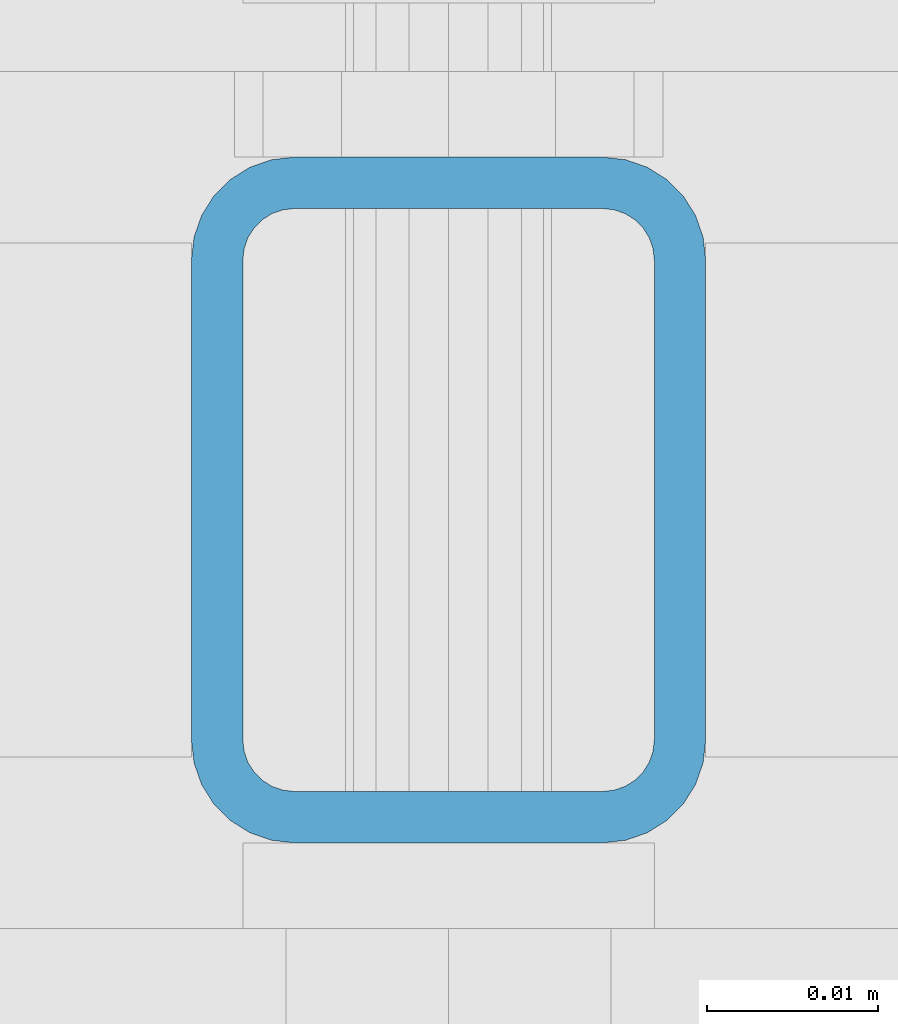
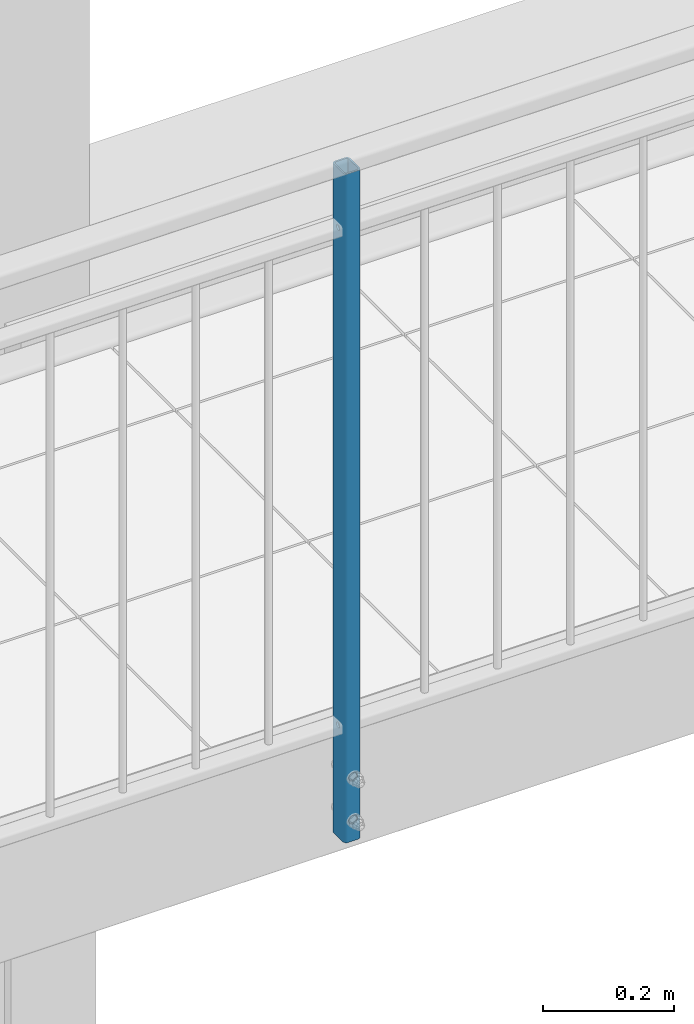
# One storey, part 3 of 162: 1 column, 8 openings.
"""IFC2X3 building model written with IfcOpenShell, lengths in millimetres."""

import ifcopenshell
import ifcopenshell.guid

model = None  # the IFC model being written
_history = None  # IfcOwnerHistory: only IFC2X3 demands one
_inside = {}  # id of a spatial element -> (the spatial element, [elements in it])
_under = {}  # id of a project, library or spatial element -> (it, [spatial elements below it])
_declared = {}  # id of a project -> (the project, [libraries it declares])
_typed = {}  # id of a type object -> (the type object, [elements of that type])
_made_of = {}  # id of a material, layer set ... -> (it, [elements and type objects made of it])


def new_model(schema):
    """Start an empty IFC model of exactly this schema.

    Asked for "IFC4X3", IfcOpenShell would pick the latest addendum, in which some entities
    have other attributes; the version numbers below select the first issue.
    IFC2X3 requires an IfcOwnerHistory on every rooted entity: one is made here for all.
    """
    global model, _history
    if schema == "IFC4X3":
        model = ifcopenshell.file(schema_version=(4, 3, 0, 0))
    else:
        model = ifcopenshell.file(schema=schema)
    _inside.clear()
    _under.clear()
    _declared.clear()
    _typed.clear()
    _made_of.clear()
    _history = None
    if model.schema == "IFC2X3":
        org = make("IfcOrganization", Name="unknown")
        user = make(
            "IfcPersonAndOrganization",
            ThePerson=make("IfcPerson", FamilyName="unknown"),
            TheOrganization=org,
        )
        app = make(
            "IfcApplication",
            ApplicationDeveloper=org,
            Version="unknown",
            ApplicationFullName="unknown",
            ApplicationIdentifier="unknown",
        )
        _history = make(
            "IfcOwnerHistory",
            OwningUser=user,
            OwningApplication=app,
            ChangeAction="ADDED",
            CreationDate=0,
        )
    return model


def make(cls, **values):
    """One entity of the class cls with the attributes given. An attribute that is None is left unset."""
    return model.create_entity(
        cls, **{name: value for name, value in values.items() if value is not None}
    )


def entity(cls, *values):
    """Any entity or typed value of the class cls, its attributes in the order of the schema. None: left unset."""
    e = model.create_entity(cls)
    for i, value in enumerate(values):
        if value is not None:
            e[i] = value
    return e


def rooted(cls, **values):
    """An entity with a GlobalId (a new one), such as an element, a storey or a relation."""
    return make(cls, GlobalId=ifcopenshell.guid.new(), OwnerHistory=_history, **values)


def si_unit(unit_type, name, prefix=None):
    """IfcSIUnit, for example si_unit("LENGTHUNIT", "METRE", prefix="MILLI")."""
    return make("IfcSIUnit", UnitType=unit_type, Prefix=prefix, Name=name)


def converted_unit(unit_type, name, factor, base, dimensions=None, offset=None):
    """IfcConversionBasedUnit, such as the inch: factor (a typed value) times the base unit."""
    return make(
        "IfcConversionBasedUnit"
        if offset is None
        else "IfcConversionBasedUnitWithOffset",
        ConversionOffset=offset,
        Dimensions=None
        if dimensions is None
        else entity("IfcDimensionalExponents", *dimensions),
        UnitType=unit_type,
        Name=name,
        ConversionFactor=make(
            "IfcMeasureWithUnit", ValueComponent=factor, UnitComponent=base
        ),
    )


def assignment(units):
    """IfcUnitAssignment: the units of a project."""
    return None if units is None else make("IfcUnitAssignment", Units=units)


def point(xyz):
    """IfcCartesianPoint."""
    return None if xyz is None else make("IfcCartesianPoint", Coordinates=xyz)


def direction(xyz):
    """IfcDirection."""
    return None if xyz is None else make("IfcDirection", DirectionRatios=xyz)


def frame(location, z_axis=None, x_axis=None):
    """IfcAxis2Placement3D, a coordinate frame: its origin and axes. An axis left out is left unset."""
    return make(
        "IfcAxis2Placement3D",
        Location=point(location),
        Axis=direction(z_axis),
        RefDirection=direction(x_axis),
    )


def frame_2d(location, x_axis=None):
    """IfcAxis2Placement2D, a coordinate frame in the plane: its origin and x axis."""
    return make(
        "IfcAxis2Placement2D", Location=point(location), RefDirection=direction(x_axis)
    )


def origin():
    """The frame at (0, 0, 0) with its axes left unset."""
    return frame((0.0, 0.0, 0.0))


def origin_with_axes():
    """The frame at (0, 0, 0) with the z axis (0, 0, 1) and the x axis (1, 0, 0) written out."""
    return frame((0.0, 0.0, 0.0), z_axis=(0.0, 0.0, 1.0), x_axis=(1.0, 0.0, 0.0))


def origin_2d():
    """The frame at (0, 0) in the plane with its x axis left unset."""
    return frame_2d((0.0, 0.0))


def place(relative_to, where):
    """IfcLocalPlacement: puts the frame where relative to a parent placement (None: the world)."""
    return make(
        "IfcLocalPlacement", PlacementRelTo=relative_to, RelativePlacement=where
    )


def context(
    kind, dimensions, precision=None, world=None, true_north=None, identifier=None
):
    """IfcGeometricRepresentationContext, for example the 3D "Model" context."""
    return make(
        "IfcGeometricRepresentationContext",
        ContextIdentifier=identifier,
        ContextType=kind,
        CoordinateSpaceDimension=dimensions,
        Precision=precision,
        WorldCoordinateSystem=world,
        TrueNorth=true_north,
    )


def project(units=None, contexts=None):
    """IfcProject with its units and contexts."""
    return rooted(
        "IfcProject",
        Name="project",
        RepresentationContexts=contexts,
        UnitsInContext=assignment(units),
    )


def spatial(cls, under=None, at=None, **own):
    """A site, building, storey or space (cls), placed at a placement, below another one or the project."""
    s = rooted(cls, ObjectPlacement=at, **own)
    if under is not None:
        _under.setdefault(under.id(), (under, []))[1].append(s)
    return s


def profile(cls, at=None, kind="AREA", **sizes):
    """A parametric profile (cls). Its sizes go by their IFC names, for example OverallWidth=200.0."""
    return make(cls, ProfileType=kind, Position=at, **sizes)


def hollow_rectangle(**sizes):
    """IfcRectangleHollowProfileDef."""
    return profile("IfcRectangleHollowProfileDef", **sizes)


def circle(**sizes):
    """IfcCircleProfileDef."""
    return profile("IfcCircleProfileDef", **sizes)


def extrude(swept, where, along, depth):
    """IfcExtrudedAreaSolid: the profile swept, set in the frame where, extruded along a direction by depth."""
    return make(
        "IfcExtrudedAreaSolid",
        SweptArea=swept,
        Position=where,
        ExtrudedDirection=direction(along),
        Depth=depth,
    )


def shape(context_of_items, identifier, shape_type, items):
    """IfcShapeRepresentation: the items that make up one representation, for example the "Body"."""
    return make(
        "IfcShapeRepresentation",
        ContextOfItems=context_of_items,
        RepresentationIdentifier=identifier,
        RepresentationType=shape_type,
        Items=items,
    )


def material(Name=None, Category=None):
    """IfcMaterial."""
    return make("IfcMaterial", Name=Name, Category=Category)


def made_of(thing, what):
    """Note that an element or type object is made of a material, layer set ...; save() writes the relation."""
    if what is not None:
        _made_of.setdefault(what.id(), (what, []))[1].append(thing)
    return thing


def element(
    cls,
    number,
    at=None,
    inside=None,
    cuts=None,
    type_object=None,
    material=None,
    context=None,
    identifier="Body",
    shape_type=None,
    held_by="IfcProductDefinitionShape",
    body=None,
    shapes=None,
    **own,
):
    """One element of the class cls, such as IfcWall. Its Tag is "e" and its number.

    at: its placement. inside: the storey or other place that contains it. cuts: it is an
    opening in that element (IfcRelVoidsElement). A single representation is given by context,
    identifier, shape_type and body (its items); several are given by shapes. held_by: the class
    of the entity that holds the representations. save() writes the other relations.
    """
    e = rooted(cls, Tag="e%d" % number, ObjectPlacement=at, **own)
    if body is not None:
        shapes = [shape(context, identifier, shape_type, body)]
    if shapes is not None:
        e.Representation = make(held_by, Representations=shapes)
    if inside is not None:
        _inside.setdefault(inside.id(), (inside, []))[1].append(e)
    if cuts is not None:
        rooted(
            "IfcRelVoidsElement", RelatingBuildingElement=cuts, RelatedOpeningElement=e
        )
    if type_object is not None:
        _typed.setdefault(type_object.id(), (type_object, []))[1].append(e)
    return made_of(e, material)


def aggregate(whole, parts):
    """IfcRelAggregates: a whole, such as a stair, and the parts it consists of."""
    return rooted("IfcRelAggregates", RelatingObject=whole, RelatedObjects=parts)


def save(model, path):
    """Write the relations noted so far, then the file.

    IfcRelAggregates (storeys below a building ...), IfcRelContainedInSpatialStructure (elements
    in a storey), IfcRelDefinesByType, IfcRelAssociatesMaterial and IfcRelDeclares: one each for
    every whole, place, type object, material and project.
    """
    for whole, parts in _under.values():
        aggregate(whole, parts)
    for where, things in _inside.values():
        rooted(
            "IfcRelContainedInSpatialStructure",
            RelatedElements=things,
            RelatingStructure=where,
        )
    for kind, things in _typed.values():
        rooted("IfcRelDefinesByType", RelatedObjects=things, RelatingType=kind)
    for what, things in _made_of.values():
        rooted("IfcRelAssociatesMaterial", RelatedObjects=things, RelatingMaterial=what)
    for by, libraries in _declared.values():
        rooted("IfcRelDeclares", RelatingContext=by, RelatedDefinitions=libraries)
    model.write(path)


model = new_model("IFC2X3")

# Units and contexts
model_context = context("Model", 3, precision=1e-09, world=origin_with_axes())
ifc_project = project(units=[si_unit("LENGTHUNIT", "METRE", prefix="MILLI"), si_unit("AREAUNIT", "SQUARE_METRE"), si_unit("VOLUMEUNIT", "CUBIC_METRE"), converted_unit("PLANEANGLEUNIT", "DEGREE", entity("IfcPlaneAngleMeasure", 0.01745329), si_unit("PLANEANGLEUNIT", "RADIAN"), dimensions=[0, 0, 0, 0, 0, 0, 0])], contexts=[model_context])

# Site, building, storey
site_placement = place(None, origin_with_axes())
site = spatial("IfcSite", under=ifc_project, at=site_placement, Name="Hermannstra?e 1a, 60318 Frankfurt", CompositionType="ELEMENT")
building_placement = place(site_placement, origin_with_axes())
building = spatial("IfcBuilding", under=site, at=building_placement, Name="Struktur 1", CompositionType="ELEMENT")
storey_placement = place(building_placement, origin_with_axes())
storey = spatial("IfcBuildingStorey", under=building, at=storey_placement, Name="Default Storey", CompositionType="ELEMENT", Elevation=0.0)

# Column, openings
ifc_material = material(Name="S235JR")
column_placement = place(None, frame((3523.30936482, 1515.609373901, 15056.999), z_axis=(0.0, 0.0, -1.0), x_axis=(1.0, 0.0, 0.0)))
column = element("IfcColumn", 1, at=column_placement, inside=storey, material=ifc_material, Name="-", ObjectType="-", context=model_context, shape_type="SweptSolid", body=[
    extrude(hollow_rectangle(XDim=30.0, YDim=40.0, WallThickness=3.0, InnerFilletRadius=3.0, OuterFilletRadius=6.0, at=origin_2d()), origin(), (0.0, 0.0, -1.0), 1250.0),
])
opening_1_placement = place(column_placement, frame((11.5, 0.0, -240.0), z_axis=(1.0, 0.0, 0.0), x_axis=(0.0, -1.0, 0.0)))
element("IfcOpeningElement", 2, at=opening_1_placement, cuts=column, ObjectType="Opening", context=model_context, shape_type="SweptSolid", body=[
    extrude(circle(Radius=5.001, at=frame_2d((0.0, -30.0), x_axis=(1.0, 0.0))), origin(), (0.0, 0.0, 1.0), 4.0),
])
opening_2_placement = place(column_placement, frame((11.5, 0.0, -1040.0), z_axis=(1.0, 0.0, 0.0), x_axis=(0.0, -1.0, 0.0)))
element("IfcOpeningElement", 3, at=opening_2_placement, cuts=column, ObjectType="Opening", context=model_context, shape_type="SweptSolid", body=[
    extrude(circle(Radius=5.001, at=frame_2d((0.0, 100.0), x_axis=(1.0, 0.0))), origin(), (0.0, 0.0, 1.0), 4.0),
])
opening_3_placement = place(column_placement, frame((-11.5, 5.001, -1140.0), z_axis=(1.0, 0.0, 0.0), x_axis=(0.0, 1.0, 0.0)))
element("IfcOpeningElement", 4, at=opening_3_placement, cuts=column, ObjectType="Opening", context=model_context, shape_type="SweptSolid", body=[
    extrude(circle(Radius=5.001, at=frame_2d((-5.001, 0.0), x_axis=(1.0, 0.0))), origin(), (0.0, 0.0, -1.0), 4.0),
])
opening_4_placement = place(column_placement, frame((-11.5, 5.001, -210.0), z_axis=(1.0, 0.0, 0.0), x_axis=(0.0, 1.0, 0.0)))
element("IfcOpeningElement", 5, at=opening_4_placement, cuts=column, ObjectType="Opening", context=model_context, shape_type="SweptSolid", body=[
    extrude(circle(Radius=5.001, at=frame_2d((-5.001, 0.0), x_axis=(1.0, 0.0))), origin(), (0.0, 0.0, -1.0), 4.0),
])
opening_5_placement = place(column_placement, frame((-8.001, -16.5, -120.0), z_axis=(0.0, 1.0, 0.0), x_axis=(-1.0, 0.0, 0.0)))
element("IfcOpeningElement", 6, at=opening_5_placement, cuts=column, ObjectType="Opening", context=model_context, shape_type="SweptSolid", body=[
    extrude(circle(Radius=8.001, at=frame_2d((-8.001, 0.0), x_axis=(1.0, 0.0))), origin(), (0.0, 0.0, -1.0), 4.0),
])
opening_6_placement = place(column_placement, frame((-8.001, -16.5, -40.0), z_axis=(0.0, 1.0, 0.0), x_axis=(-1.0, 0.0, 0.0)))
element("IfcOpeningElement", 7, at=opening_6_placement, cuts=column, ObjectType="Opening", context=model_context, shape_type="SweptSolid", body=[
    extrude(circle(Radius=8.001, at=frame_2d((-8.001, 0.0), x_axis=(1.0, 0.0))), origin(), (0.0, 0.0, -1.0), 4.0),
])
opening_7_placement = place(column_placement, frame((-8.001, 20.5, -120.0), z_axis=(0.0, 1.0, 0.0), x_axis=(-1.0, 0.0, 0.0)))
element("IfcOpeningElement", 8, at=opening_7_placement, cuts=column, ObjectType="Opening", context=model_context, shape_type="SweptSolid", body=[
    extrude(circle(Radius=8.001, at=frame_2d((-8.001, 0.0), x_axis=(1.0, 0.0))), origin(), (0.0, 0.0, -1.0), 4.0),
])
opening_8_placement = place(column_placement, frame((-8.001, 20.5, -40.0), z_axis=(0.0, 1.0, 0.0), x_axis=(-1.0, 0.0, 0.0)))
element("IfcOpeningElement", 9, at=opening_8_placement, cuts=column, ObjectType="Opening", context=model_context, shape_type="SweptSolid", body=[
    extrude(circle(Radius=8.001, at=frame_2d((-8.001, 0.0), x_axis=(1.0, 0.0))), origin(), (0.0, 0.0, -1.0), 4.0),
])

save(model, "model.ifc")
